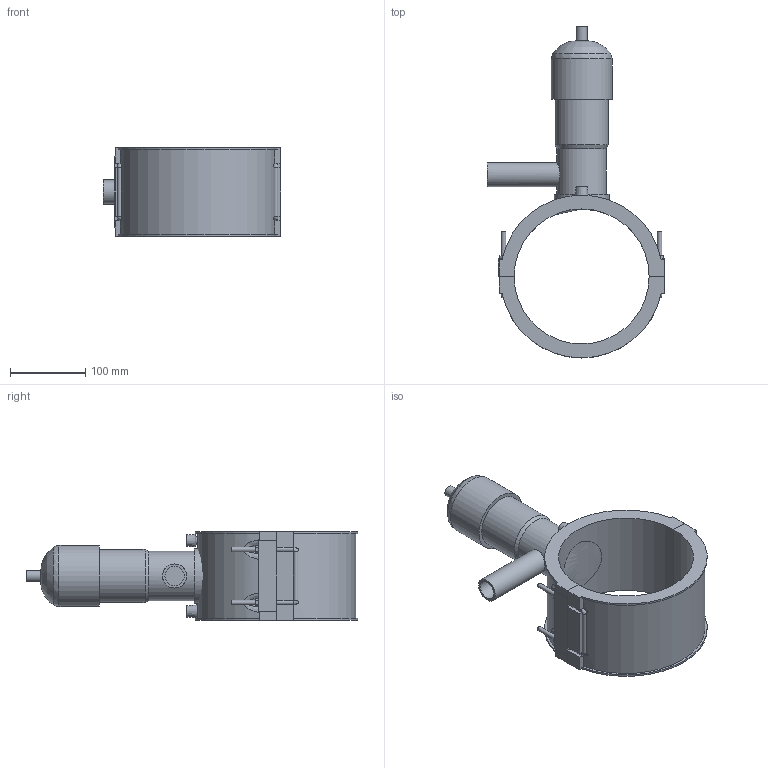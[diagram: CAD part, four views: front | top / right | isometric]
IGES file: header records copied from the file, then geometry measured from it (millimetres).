
Global section: file name: 495404180032.ipt; native system: Autodesk Inventor 2015; preprocessor: unknown; author: KIM; date: 20171106.094302; units: millimetre
Bounding box: 237 x 442.46 x 118 mm (x, y, z)
Volume: 2122210.2 mm3; surface area: 274722.2 mm2
Topology: 3 solids, 5 shells, 157 faces, 388 edges, 246 vertices
Faces by surface type: plane 93, cylinder 29, revolution 16, bspline 12, cone 7
Full cylindrical faces by diameter (mm): 4 x2, 6 x8, 14.64 x1, 32 x1, 65.88 x1, 70.76 x1, 73.2 x1, 81.333 x1
